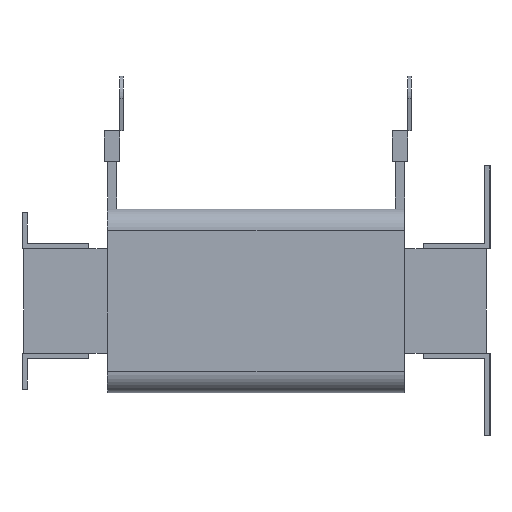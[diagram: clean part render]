
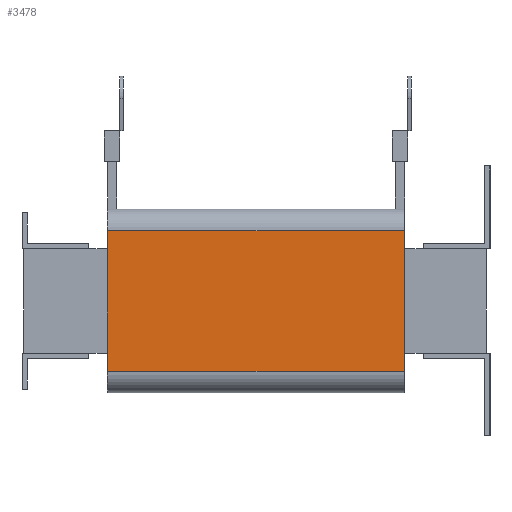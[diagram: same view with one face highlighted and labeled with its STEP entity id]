
A CAD part, left-side view. The second image highlights one B-rep face of the part: STEP entity #3478.
In plain terms, the highlighted planar face has unit normal (-1, 0, 0).
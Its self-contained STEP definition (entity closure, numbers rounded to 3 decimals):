
#113=PLANE('',#3750);
#290=FACE_OUTER_BOUND('',#498,.T.);
#498=EDGE_LOOP('',(#2811,#2812,#2813,#2814));
#769=LINE('',#5210,#1203);
#835=LINE('',#5366,#1269);
#836=LINE('',#5369,#1270);
#837=LINE('',#5370,#1271);
#1203=VECTOR('',#4230,10.);
#1269=VECTOR('',#4356,10.);
#1270=VECTOR('',#4359,10.);
#1271=VECTOR('',#4360,10.);
#1686=VERTEX_POINT('',#5207);
#1687=VERTEX_POINT('',#5209);
#1747=VERTEX_POINT('',#5364);
#1748=VERTEX_POINT('',#5368);
#2064=EDGE_CURVE('',#1687,#1686,#769,.T.);
#2144=EDGE_CURVE('',#1747,#1686,#835,.T.);
#2145=EDGE_CURVE('',#1687,#1748,#836,.T.);
#2146=EDGE_CURVE('',#1748,#1747,#837,.T.);
#2811=ORIENTED_EDGE('',*,*,#2145,.F.);
#2812=ORIENTED_EDGE('',*,*,#2064,.T.);
#2813=ORIENTED_EDGE('',*,*,#2144,.F.);
#2814=ORIENTED_EDGE('',*,*,#2146,.F.);
#3478=ADVANCED_FACE('',(#290),#113,.T.);
#3750=AXIS2_PLACEMENT_3D('',#5367,#4357,#4358);
#4230=DIRECTION('',(0.,0.,1.));
#4356=DIRECTION('',(0.,-1.,0.));
#4357=DIRECTION('center_axis',(-1.,0.,0.));
#4358=DIRECTION('ref_axis',(0.,0.,1.));
#4359=DIRECTION('',(0.,1.,0.));
#4360=DIRECTION('',(0.,0.,1.));
#5207=CARTESIAN_POINT('',(-141.,47.5,39.));
#5209=CARTESIAN_POINT('',(-141.,47.5,-39.));
#5210=CARTESIAN_POINT('',(-141.,47.5,-51.));
#5364=CARTESIAN_POINT('',(-141.,212.5,39.));
#5366=CARTESIAN_POINT('',(-141.,47.5,39.));
#5367=CARTESIAN_POINT('Origin',(-141.,47.5,-51.));
#5368=CARTESIAN_POINT('',(-141.,212.5,-39.));
#5369=CARTESIAN_POINT('',(-141.,47.5,-39.));
#5370=CARTESIAN_POINT('',(-141.,212.5,-51.));
